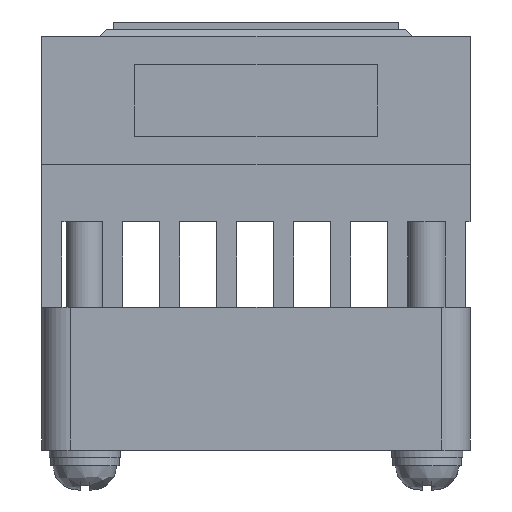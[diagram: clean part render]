
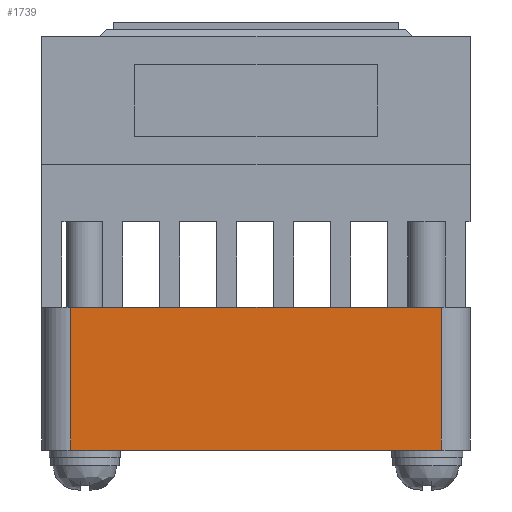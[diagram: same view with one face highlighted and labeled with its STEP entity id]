
A CAD part, front view. The second image highlights one B-rep face of the part: STEP entity #1739.
In plain terms, the highlighted planar face has unit normal (0, -1, 0) as drawn and (0, 1, 0) by its records, which use the part's own axes.
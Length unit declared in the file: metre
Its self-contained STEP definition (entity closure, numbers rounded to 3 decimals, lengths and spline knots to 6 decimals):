
#1739=ADVANCED_FACE('0:501',(#3537),#3538,.T.);
#3537=FACE_OUTER_BOUND('',#5639,.T.);
#3538=PLANE('',#5640);
#5639=EDGE_LOOP('',(#10443,#10444,#10445,#10446));
#5640=AXIS2_PLACEMENT_3D('',#10447,#10448,#10449);
#10443=ORIENTED_EDGE('',*,*,#13126,.F.);
#10444=ORIENTED_EDGE('',*,*,#13185,.T.);
#10445=ORIENTED_EDGE('',*,*,#13183,.F.);
#10446=ORIENTED_EDGE('',*,*,#13146,.T.);
#10447=CARTESIAN_POINT('',(0.015,0.03,0.0));
#10448=DIRECTION('',(0.0,1.0,0.0));
#10449=DIRECTION('',(-1.0,0.0,0.));
#13126=EDGE_CURVE('2:12426',#15734,#15736,#15737,.T.);
#13146=EDGE_CURVE('0:525',#15770,#15736,#15771,.T.);
#13183=EDGE_CURVE('2:11987',#15770,#15821,#15825,.T.);
#13185=EDGE_CURVE('0:519',#15734,#15821,#15827,.T.);
#15734=VERTEX_POINT('',#19844);
#15736=VERTEX_POINT('',#19846);
#15737=LINE('',#19847,#19848);
#15770=VERTEX_POINT('',#19887);
#15771=LINE('',#19888,#19889);
#15821=VERTEX_POINT('',#19963);
#15825=LINE('',#19968,#19969);
#15827=LINE('',#19971,#19972);
#19844=CARTESIAN_POINT('',(0.002,0.03,0.01));
#19846=CARTESIAN_POINT('',(0.002,0.03,0.0));
#19847=CARTESIAN_POINT('',(0.002,0.03,0.0));
#19848=VECTOR('',#22270,1.0);
#19887=CARTESIAN_POINT('',(0.028,0.03,0.0));
#19888=CARTESIAN_POINT('',(0.03,0.03,0.0));
#19889=VECTOR('',#22304,1.0);
#19963=CARTESIAN_POINT('',(0.028,0.03,0.01));
#19968=CARTESIAN_POINT('',(0.028,0.03,0.0));
#19969=VECTOR('',#22348,1.0);
#19971=CARTESIAN_POINT('',(0.03,0.03,0.01));
#19972=VECTOR('',#22349,1.0);
#22270=DIRECTION('',(-0.0,-0.0,-1.0));
#22304=DIRECTION('',(-1.0,0.0,0.0));
#22348=DIRECTION('',(0.0,0.0,1.0));
#22349=DIRECTION('',(1.0,0.0,0.0));
